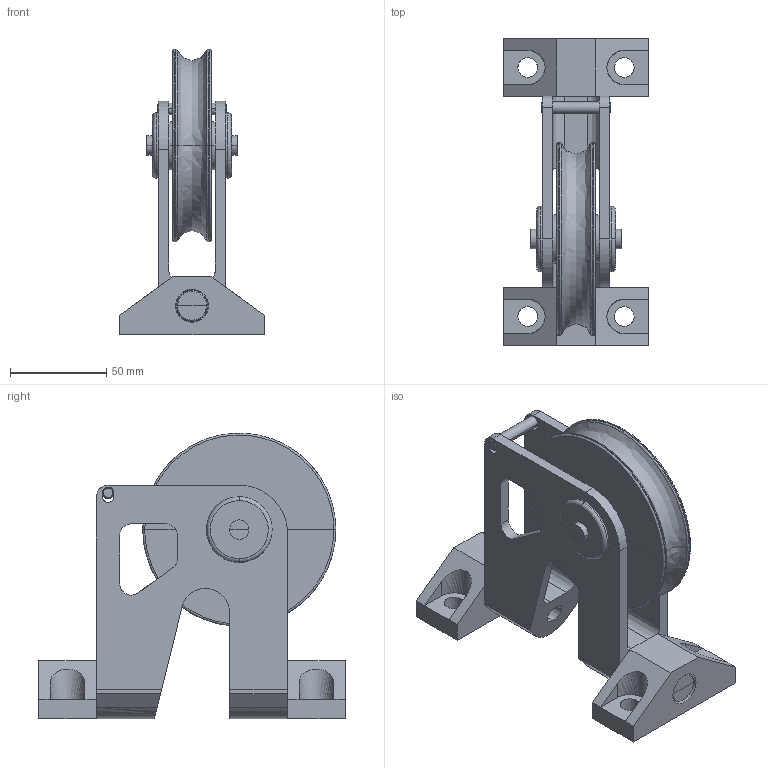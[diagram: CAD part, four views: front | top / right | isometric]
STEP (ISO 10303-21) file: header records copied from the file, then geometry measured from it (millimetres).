
FILE_DESCRIPTION(/* description */ (''),/* implementation_level */ '2;1');
FILE_NAME(/* name */ 'POULIE SIMPLE ARTICULEE D 100',/* time_stamp */ '2005-05-31T08:56:45+02:00',/* author */ (''),/* organization */ (''),/* preprocessor_version */ 'ST-DEVELOPER v8',/* originating_system */ '',/* authorisation */ '');
FILE_SCHEMA (('CONFIG_CONTROL_DESIGN'));
Length unit declared in the file: millimetre
Products named in the file (1): 1
Bounding box: 75 x 159 x 147.91 mm (x, y, z)
Volume: 361077.6 mm3; surface area: 111730.3 mm2
Topology: 17 solids, 17 shells, 261 faces, 618 edges, 369 vertices
Faces by surface type: bspline 261
Entity records: 9801 total; most frequent: CARTESIAN_POINT 6264, ORIENTED_EDGE 1174, EDGE_CURVE 587, VERTEX_POINT 360, B_SPLINE_CURVE_WITH_KNOTS 347, EDGE_LOOP 303, ADVANCED_FACE 261, FACE_OUTER_BOUND 261
